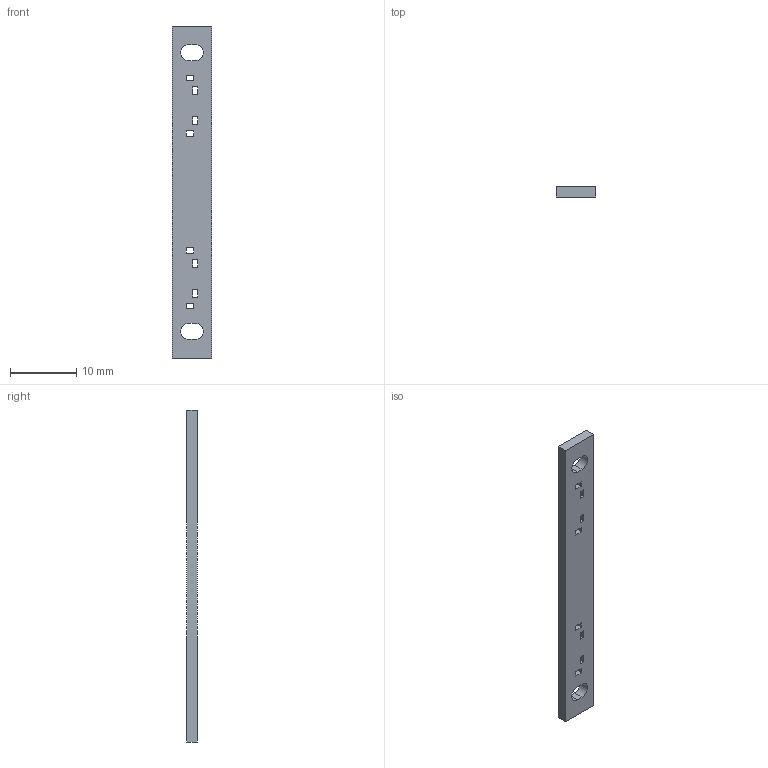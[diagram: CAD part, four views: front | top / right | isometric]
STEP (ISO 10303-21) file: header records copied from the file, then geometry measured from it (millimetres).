
FILE_DESCRIPTION(('Open CASCADE Model'),'2;1');
FILE_NAME('carrier_right_vol_fr4_handwired','2026-09-08T13:43:18',( 'Author'),('Open CASCADE'),'Open CASCADE STEP processor 7.8', 'build123d','Unknown');
FILE_SCHEMA(('AUTOMOTIVE_DESIGN { 1 0 10303 214 1 1 1 1 }'));
Length unit declared in the file: millimetre
Products named in the file (2): =>[0:1:1:2]; carrier_right_vol_fr4_handwired
Assembly tree (1 placements, depth 2):
  =>[0:1:1:2]
    carrier_right_vol_fr4_handwired
Bounding box: 6 x 1.6 x 50 mm (x, y, z)
Volume: 445.6 mm3; surface area: 817.9 mm2
Topology: 1 solids, 1 shells, 46 faces, 132 edges, 88 vertices
Faces by surface type: plane 42, cylinder 4
Entity records: 3268 total; most frequent: CARTESIAN_POINT 532, DIRECTION 500, LINE 380, VECTOR 380, ORIENTED_EDGE 264, PCURVE 264, DEFINITIONAL_REPRESENTATION 264, EDGE_CURVE 132
